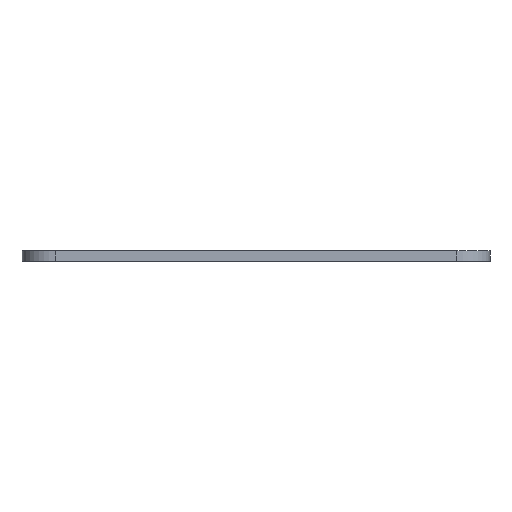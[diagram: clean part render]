
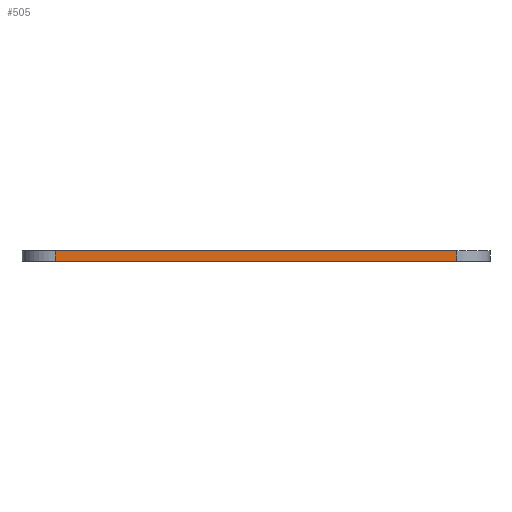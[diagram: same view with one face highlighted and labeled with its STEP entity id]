
A CAD part, left-side view. The second image highlights one B-rep face of the part: STEP entity #505.
In plain terms, the highlighted planar face has unit normal (-1, 0, 0).
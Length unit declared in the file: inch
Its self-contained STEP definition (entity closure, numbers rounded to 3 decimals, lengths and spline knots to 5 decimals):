
#11 = CARTESIAN_POINT ( 'NONE',  ( 0., 2.49438, 0.0625 ) ) ;
#12 = CARTESIAN_POINT ( 'NONE',  ( 0., 0.19062, 0.0625 ) ) ;
#13 = CARTESIAN_POINT ( 'NONE',  ( 0., 0.19062, 0. ) ) ;
#14 = CARTESIAN_POINT ( 'NONE',  ( 0., 2.49438, 0. ) ) ;
#22 = ORIENTED_EDGE ( 'NONE', *, *, #362, .T. ) ;
#27 = ORIENTED_EDGE ( 'NONE', *, *, #364, .T. ) ;
#28 = ORIENTED_EDGE ( 'NONE', *, *, #353, .F. ) ;
#36 = ORIENTED_EDGE ( 'NONE', *, *, #363, .T. ) ;
#102 = VERTEX_POINT ( 'NONE', #14 ) ;
#103 = VERTEX_POINT ( 'NONE', #13 ) ;
#104 = VERTEX_POINT ( 'NONE', #12 ) ;
#105 = VERTEX_POINT ( 'NONE', #11 ) ;
#142 = EDGE_LOOP ( 'NONE', ( #36, #22, #28, #27 ) ) ;
#353 = EDGE_CURVE ( 'NONE', #105, #104, #560, .T. ) ;
#362 = EDGE_CURVE ( 'NONE', #103, #104, #581, .T. ) ;
#363 = EDGE_CURVE ( 'NONE', #102, #103, #574, .T. ) ;
#364 = EDGE_CURVE ( 'NONE', #105, #102, #590, .T. ) ;
#466 = AXIS2_PLACEMENT_3D ( 'NONE', #995, #998, #999 ) ;
#505 = ADVANCED_FACE ( 'NONE', ( #674 ), #996, .F. ) ;
#560 = LINE ( 'NONE', #817, #570 ) ;
#570 = VECTOR ( 'NONE', #821, 39.37008 ) ;
#574 = LINE ( 'NONE', #839, #588 ) ;
#581 = LINE ( 'NONE', #837, #586 ) ;
#586 = VECTOR ( 'NONE', #840, 39.37008 ) ;
#588 = VECTOR ( 'NONE', #842, 39.37008 ) ;
#590 = LINE ( 'NONE', #843, #591 ) ;
#591 = VECTOR ( 'NONE', #844, 39.37008 ) ;
#674 = FACE_OUTER_BOUND ( 'NONE', #142, .T. ) ;
#817 = CARTESIAN_POINT ( 'NONE',  ( 0., 2.685, 0.0625 ) ) ;
#821 = DIRECTION ( 'NONE',  ( 0., -1., 0. ) ) ;
#837 = CARTESIAN_POINT ( 'NONE',  ( 0., 0.19062, 0.0625 ) ) ;
#839 = CARTESIAN_POINT ( 'NONE',  ( 0., 2.685, 0. ) ) ;
#840 = DIRECTION ( 'NONE',  ( 0., 0., 1. ) ) ;
#842 = DIRECTION ( 'NONE',  ( 0., -1., 0. ) ) ;
#843 = CARTESIAN_POINT ( 'NONE',  ( 0., 2.49438, 0.0625 ) ) ;
#844 = DIRECTION ( 'NONE',  ( 0., 0., -1. ) ) ;
#995 = CARTESIAN_POINT ( 'NONE',  ( 0., 2.685, 0.0625 ) ) ;
#996 = PLANE ( 'NONE',  #466 ) ;
#998 = DIRECTION ( 'NONE',  ( 1., 0., 0. ) ) ;
#999 = DIRECTION ( 'NONE',  ( 0., 0., -1. ) ) ;
